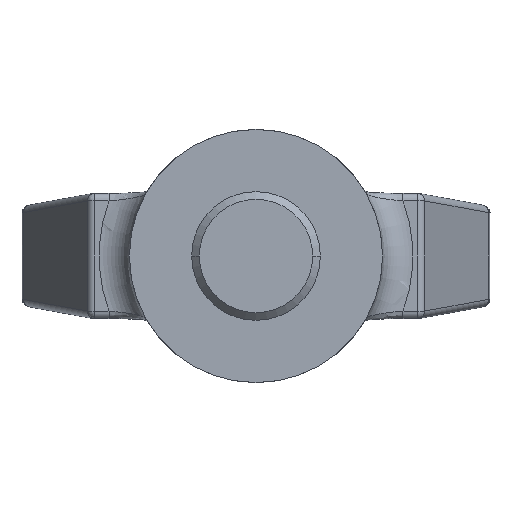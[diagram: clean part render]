
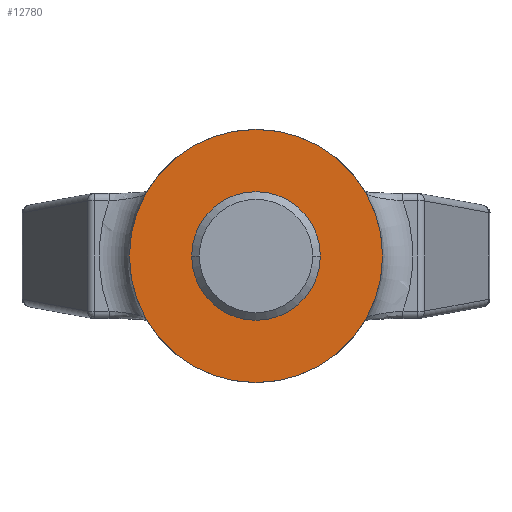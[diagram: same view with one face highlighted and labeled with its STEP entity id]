
A CAD part, front view. The second image highlights one B-rep face of the part: STEP entity #12780.
In plain terms, the highlighted planar face has unit normal (0, -1, 0).
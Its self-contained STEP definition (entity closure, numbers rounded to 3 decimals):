
#4441=CARTESIAN_POINT('',(0.,-44.5,0.));
#4442=DIRECTION('',(0.,-1.,0.));
#4443=DIRECTION('',(-1.,0.,0.));
#4444=AXIS2_PLACEMENT_3D('',#4441,#4442,#4443);
#4446=CARTESIAN_POINT('',(0.,-44.5,0.));
#4447=DIRECTION('',(0.,1.,0.));
#4448=DIRECTION('',(-1.,0.,0.));
#4449=AXIS2_PLACEMENT_3D('',#4446,#4447,#4448);
#4505=CARTESIAN_POINT('',(-25.,-44.5,0.));
#4506=CARTESIAN_POINT('',(25.,-44.5,0.));
#4507=VERTEX_POINT('',#4505);
#4508=VERTEX_POINT('',#4506);
#12771=CARTESIAN_POINT('',(0.,-44.5,0.));
#12772=DIRECTION('',(0.,1.,0.));
#12773=DIRECTION('',(1.,0.,0.));
#12774=AXIS2_PLACEMENT_3D('',#12771,#12772,#12773);
#12775=PLANE('',#12774);
#12776=ORIENTED_EDGE('',*,*,#6937,.F.);
#12777=ORIENTED_EDGE('',*,*,#5786,.T.);
#12778=EDGE_LOOP('',(#12776,#12777));
#12779=FACE_OUTER_BOUND('',#12778,.F.);
#12780=ADVANCED_FACE('',(#12779),#12775,.F.);
#4445=CIRCLE('',#4444,25.);
#4450=CIRCLE('',#4449,25.);
#5786=EDGE_CURVE('',#4507,#4508,#4450,.T.);
#6937=EDGE_CURVE('',#4507,#4508,#4445,.T.);
